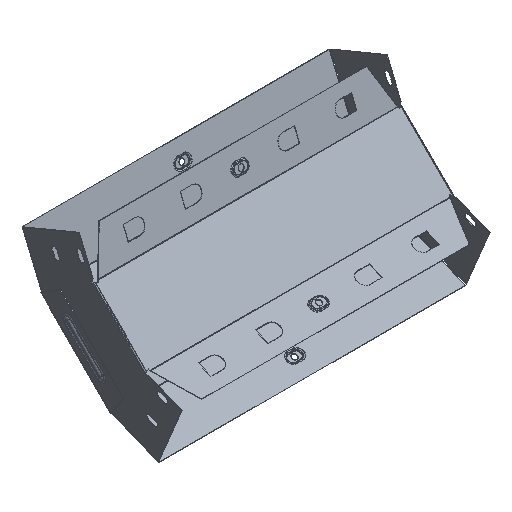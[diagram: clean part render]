
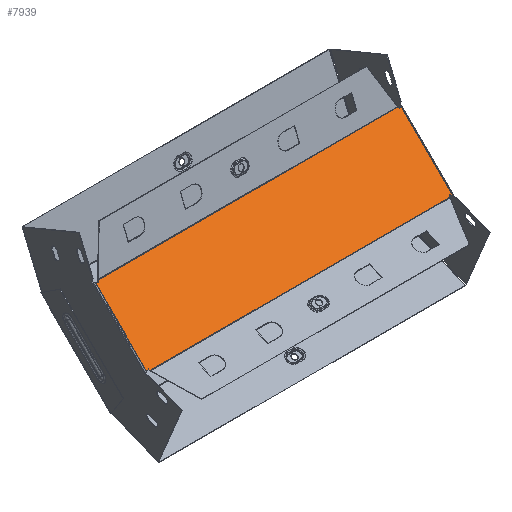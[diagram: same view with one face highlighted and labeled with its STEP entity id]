
A CAD part, isometric view. The second image highlights one B-rep face of the part: STEP entity #7939.
In plain terms, the highlighted planar face has unit normal (0, -0.707, 0.707).
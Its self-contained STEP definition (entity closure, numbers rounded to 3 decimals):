
#12 = ORIENTED_EDGE ( 'NONE', *, *, #9016, .T. ) ;
#68 = CARTESIAN_POINT ( 'NONE',  ( -198.2, 2.873, -69.245 ) ) ;
#115 = ORIENTED_EDGE ( 'NONE', *, *, #7508, .T. ) ;
#224 = EDGE_CURVE ( 'NONE', #3689, #3641, #9454, .T. ) ;
#400 = CARTESIAN_POINT ( 'NONE',  ( 198.2, 70., -2.118 ) ) ;
#553 = EDGE_CURVE ( 'NONE', #10982, #5121, #8657, .T. ) ;
#593 = LINE ( 'NONE', #7112, #6431 ) ;
#595 = ORIENTED_EDGE ( 'NONE', *, *, #9711, .T. ) ;
#644 = EDGE_CURVE ( 'NONE', #3941, #3053, #685, .T. ) ;
#652 = ORIENTED_EDGE ( 'NONE', *, *, #2798, .F. ) ;
#669 = EDGE_CURVE ( 'NONE', #3952, #3941, #5905, .T. ) ;
#685 = LINE ( 'NONE', #2291, #6051 ) ;
#941 = VECTOR ( 'NONE', #11016, 1000. ) ;
#950 = DIRECTION ( 'NONE',  ( -0.383, -0.653, -0.653 ) ) ;
#1003 = DIRECTION ( 'NONE',  ( -1., 0., 0. ) ) ;
#1153 = CARTESIAN_POINT ( 'NONE',  ( -200.299, 69.859, -2.258 ) ) ;
#1444 = PLANE ( 'NONE',  #10038 ) ;
#1656 = CARTESIAN_POINT ( 'NONE',  ( -200.299, 2.258, -69.859 ) ) ;
#1910 = VERTEX_POINT ( 'NONE', #10086 ) ;
#2079 = ORIENTED_EDGE ( 'NONE', *, *, #8940, .T. ) ;
#2291 = CARTESIAN_POINT ( 'NONE',  ( 173.5, 105.445, 33.327 ) ) ;
#2323 = DIRECTION ( 'NONE',  ( 0.383, 0.653, 0.653 ) ) ;
#2358 = VECTOR ( 'NONE', #950, 1000. ) ;
#2424 = DIRECTION ( 'NONE',  ( 0.383, -0.653, -0.653 ) ) ;
#2437 = EDGE_CURVE ( 'NONE', #4046, #3689, #4632, .T. ) ;
#2447 = LINE ( 'NONE', #6219, #3223 ) ;
#2490 = DIRECTION ( 'NONE',  ( 0., 0.707, -0.707 ) ) ;
#2798 = EDGE_CURVE ( 'NONE', #1910, #5121, #11206, .T. ) ;
#3028 = ORIENTED_EDGE ( 'NONE', *, *, #2437, .T. ) ;
#3053 = VERTEX_POINT ( 'NONE', #10304 ) ;
#3148 = VECTOR ( 'NONE', #2424, 1000. ) ;
#3174 = VECTOR ( 'NONE', #11137, 1000. ) ;
#3223 = VECTOR ( 'NONE', #2323, 1000. ) ;
#3553 = VECTOR ( 'NONE', #1003, 1000. ) ;
#3641 = VERTEX_POINT ( 'NONE', #68 ) ;
#3688 = VECTOR ( 'NONE', #5348, 1000. ) ;
#3689 = VERTEX_POINT ( 'NONE', #10112 ) ;
#3717 = ORIENTED_EDGE ( 'NONE', *, *, #553, .T. ) ;
#3766 = CARTESIAN_POINT ( 'NONE',  ( 198.2, 2.258, -69.859 ) ) ;
#3860 = VECTOR ( 'NONE', #7646, 1000. ) ;
#3941 = VERTEX_POINT ( 'NONE', #11719 ) ;
#3952 = VERTEX_POINT ( 'NONE', #11670 ) ;
#4046 = VERTEX_POINT ( 'NONE', #11014 ) ;
#4257 = VERTEX_POINT ( 'NONE', #12229 ) ;
#4632 = LINE ( 'NONE', #1153, #941 ) ;
#4715 = CARTESIAN_POINT ( 'NONE',  ( 198.2, 69.859, -2.258 ) ) ;
#5121 = VERTEX_POINT ( 'NONE', #8972 ) ;
#5348 = DIRECTION ( 'NONE',  ( 0., -0.707, -0.707 ) ) ;
#5468 = VECTOR ( 'NONE', #8126, 1000. ) ;
#5595 = LINE ( 'NONE', #7770, #2358 ) ;
#5685 = FACE_OUTER_BOUND ( 'NONE', #7049, .T. ) ;
#5905 = LINE ( 'NONE', #10197, #8650 ) ;
#6049 = EDGE_CURVE ( 'NONE', #7382, #4046, #5595, .T. ) ;
#6051 = VECTOR ( 'NONE', #6233, 1000. ) ;
#6219 = CARTESIAN_POINT ( 'NONE',  ( 173.5, -33.327, -105.445 ) ) ;
#6233 = DIRECTION ( 'NONE',  ( -0.383, 0.653, 0.653 ) ) ;
#6347 = VERTEX_POINT ( 'NONE', #10393 ) ;
#6400 = LINE ( 'NONE', #1656, #3174 ) ;
#6431 = VECTOR ( 'NONE', #8140, 1000. ) ;
#7049 = EDGE_LOOP ( 'NONE', ( #595, #2079, #11324, #9782, #10989, #115, #10533, #3028, #12418, #12, #3717, #652 ) ) ;
#7112 = CARTESIAN_POINT ( 'NONE',  ( 200.299, 2.258, -69.859 ) ) ;
#7273 = CARTESIAN_POINT ( 'NONE',  ( -195.217, 3.747, -68.371 ) ) ;
#7301 = CARTESIAN_POINT ( 'NONE',  ( -195.217, 3.747, -68.371 ) ) ;
#7382 = VERTEX_POINT ( 'NONE', #12117 ) ;
#7508 = EDGE_CURVE ( 'NONE', #3053, #7382, #8119, .T. ) ;
#7646 = DIRECTION ( 'NONE',  ( -1., 0., 0. ) ) ;
#7770 = CARTESIAN_POINT ( 'NONE',  ( -195.217, 68.371, -3.747 ) ) ;
#7939 = ADVANCED_FACE ( 'NONE', ( #5685 ), #1444, .F. ) ;
#8119 = LINE ( 'NONE', #4715, #3860 ) ;
#8126 = DIRECTION ( 'NONE',  ( 0., -0.707, -0.707 ) ) ;
#8140 = DIRECTION ( 'NONE',  ( 0.924, -0.271, -0.271 ) ) ;
#8219 = CARTESIAN_POINT ( 'NONE',  ( -198.2, 70., -2.118 ) ) ;
#8650 = VECTOR ( 'NONE', #11174, 1000. ) ;
#8657 = LINE ( 'NONE', #7301, #3148 ) ;
#8940 = EDGE_CURVE ( 'NONE', #4257, #6347, #593, .T. ) ;
#8972 = CARTESIAN_POINT ( 'NONE',  ( -194.345, 2.258, -69.859 ) ) ;
#9016 = EDGE_CURVE ( 'NONE', #3641, #10982, #6400, .T. ) ;
#9454 = LINE ( 'NONE', #8219, #5468 ) ;
#9711 = EDGE_CURVE ( 'NONE', #1910, #4257, #2447, .T. ) ;
#9782 = ORIENTED_EDGE ( 'NONE', *, *, #669, .T. ) ;
#10038 = AXIS2_PLACEMENT_3D ( 'NONE', #10293, #2490, #10343 ) ;
#10086 = CARTESIAN_POINT ( 'NONE',  ( 194.345, 2.258, -69.859 ) ) ;
#10112 = CARTESIAN_POINT ( 'NONE',  ( -198.2, 69.245, -2.873 ) ) ;
#10197 = CARTESIAN_POINT ( 'NONE',  ( 200.299, 69.859, -2.258 ) ) ;
#10293 = CARTESIAN_POINT ( 'NONE',  ( 198.2, 70., -2.118 ) ) ;
#10304 = CARTESIAN_POINT ( 'NONE',  ( 194.345, 69.859, -2.258 ) ) ;
#10343 = DIRECTION ( 'NONE',  ( 0., 0.707, 0.707 ) ) ;
#10393 = CARTESIAN_POINT ( 'NONE',  ( 198.2, 2.873, -69.245 ) ) ;
#10533 = ORIENTED_EDGE ( 'NONE', *, *, #6049, .T. ) ;
#10982 = VERTEX_POINT ( 'NONE', #7273 ) ;
#10989 = ORIENTED_EDGE ( 'NONE', *, *, #644, .T. ) ;
#11014 = CARTESIAN_POINT ( 'NONE',  ( -195.217, 68.371, -3.747 ) ) ;
#11016 = DIRECTION ( 'NONE',  ( -0.924, 0.271, 0.271 ) ) ;
#11137 = DIRECTION ( 'NONE',  ( 0.924, 0.271, 0.271 ) ) ;
#11174 = DIRECTION ( 'NONE',  ( -0.924, -0.271, -0.271 ) ) ;
#11206 = LINE ( 'NONE', #3766, #3553 ) ;
#11207 = LINE ( 'NONE', #400, #3688 ) ;
#11324 = ORIENTED_EDGE ( 'NONE', *, *, #12189, .F. ) ;
#11670 = CARTESIAN_POINT ( 'NONE',  ( 198.2, 69.245, -2.873 ) ) ;
#11719 = CARTESIAN_POINT ( 'NONE',  ( 195.217, 68.371, -3.747 ) ) ;
#12117 = CARTESIAN_POINT ( 'NONE',  ( -194.345, 69.859, -2.258 ) ) ;
#12189 = EDGE_CURVE ( 'NONE', #3952, #6347, #11207, .T. ) ;
#12229 = CARTESIAN_POINT ( 'NONE',  ( 195.217, 3.747, -68.371 ) ) ;
#12418 = ORIENTED_EDGE ( 'NONE', *, *, #224, .T. ) ;
